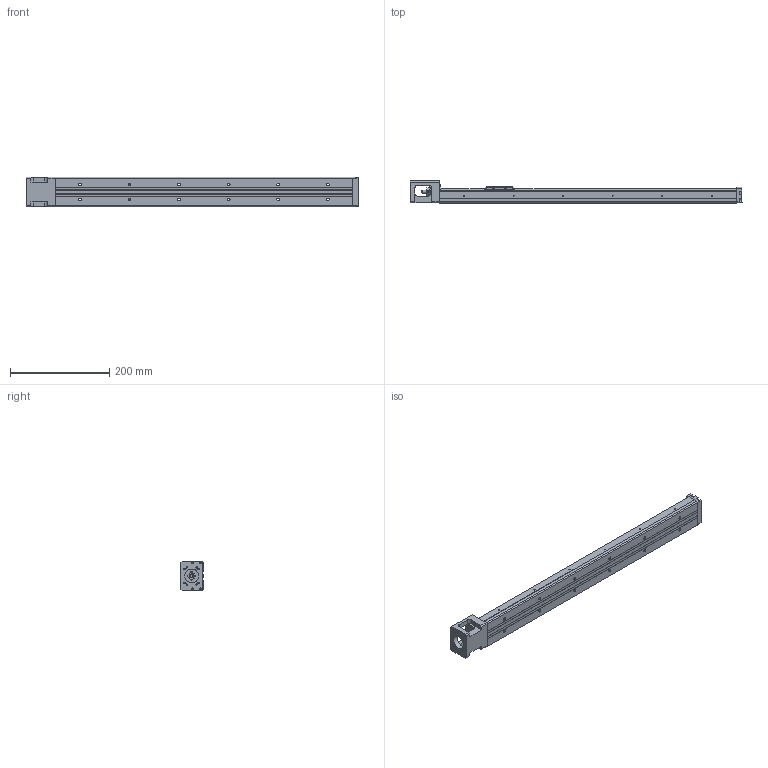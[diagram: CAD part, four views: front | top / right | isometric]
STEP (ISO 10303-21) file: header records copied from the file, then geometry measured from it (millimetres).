
FILE_DESCRIPTION(/* description */ (''),/* implementation_level */ '2;1');
FILE_NAME(/* name */ 'KP33S-600C02-1.stp',/* time_stamp */ '2020-07-01T15:43:41+08:00',/* author */ (''),/* organization */ (''),/* preprocessor_version */ 'ST-DEVELOPER v14',/* originating_system */ 'SIEMENS PLM Software NX 8.0',/* authorisation */ '');
FILE_SCHEMA (('AUTOMOTIVE_DESIGN { 1 0 10303 214 3 1 1 1 }'));
Length unit declared in the file: millimetre
Products named in the file (1): model1
Bounding box: 670 x 44.45 x 60 mm (x, y, z)
Volume: 676870.1 mm3; surface area: 191422.3 mm2
Topology: 5 solids, 14 shells, 657 faces, 1672 edges, 1101 vertices
Faces by surface type: plane 380, cylinder 196, bspline 31, extrusion 21, cone 20, torus 7, sphere 2
Full cylindrical faces by diameter (mm): 1.6 x4, 1.65 x4, 2.15 x6, 2.42 x4, 2.45 x2, 2.5 x16, 3.2 x4, 3.3 x4, 3.4 x4, 3.5 x10, 3.969 x1, 4 x4, 4.001 x1, 4.135 x2, 5.5 x12, 6 x5, 7.6 x1, 8 x5, 9.5 x12, 10.72 x3, 11.8 x2, 12 x6, 12.8 x1, 13 x2, 14 x1, 16 x4, 21.5 x1, 28 x1
Entity records: 34923 total; most frequent: CARTESIAN_POINT 15398, DIRECTION 3004, ORIENTED_EDGE 2896, EDGE_CURVE 1448, AXIS2_PLACEMENT_3D 1078, VERTEX_POINT 1028, EDGE_LOOP 936, VECTOR 848
